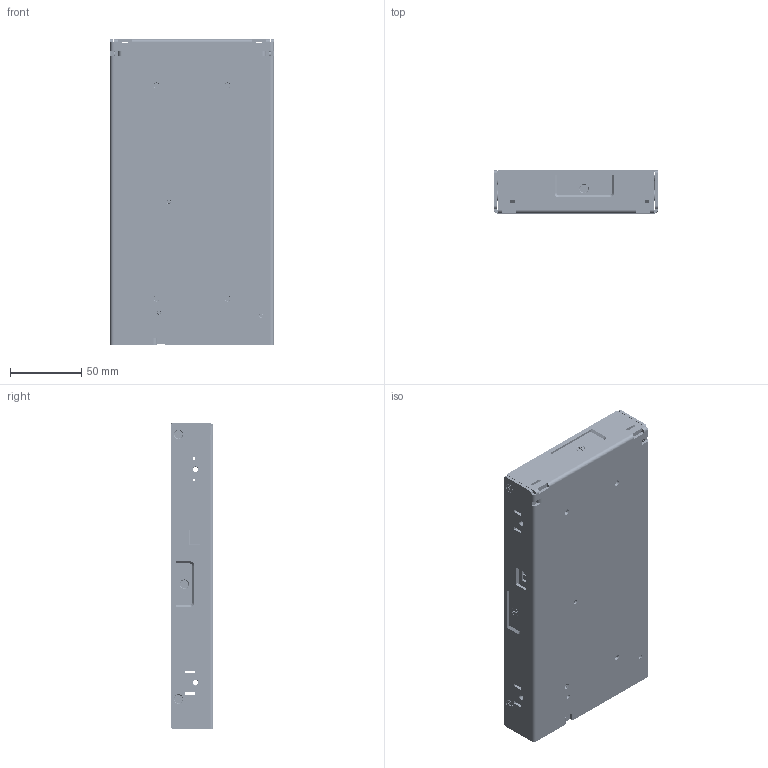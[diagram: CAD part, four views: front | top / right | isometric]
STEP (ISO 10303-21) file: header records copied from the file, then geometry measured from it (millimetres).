
FILE_DESCRIPTION((''),'2;1');
FILE_NAME('LM350-10BXX_ASM','2025-03-27T',('pe211'),(''),'PRO/ENGINEER BY PARAMETRIC TECHNOLOGY CORPORATION, 2014000','PRO/ENGINEER BY PARAMETRIC TECHNOLOGY CORPORATION, 2014000','');
FILE_SCHEMA(('AUTOMOTIVE_DESIGN { 1 0 10303 214 1 1 1 1 }'));
Products named in the file (278): CHASSIS_5_1; M3_6_1_1; INSULATOR_3_1; SCREW_5_1; 0_CHASSIS_ASM_3_ASM_1_ASM; MANIFOLD_SOLID_BREP_115093_1; MANIFOLD_SOLID_BREP_115234_1; FAN_1_ASM_1_ASM; SCREW_FAN_1_1; 0_COVER_ASM_2_ASM_1_ASM; CASE_ASM_1_ASM_1_ASM; PRT0029_2_1; ASM0242_ASM_1_ASM_1; ASM0243_ASM_1_ASM_1; ASM0244_ASM_1_ASM_1; ASM0245_ASM_1_ASM_1; ASM0246_ASM_1_ASM_1; ASM0247_ASM_1_ASM_1; ASM0248_ASM_1_ASM_1; ASM0249_ASM_1_ASM_1; ASM0250_ASM_1_ASM_1; ASM0251_ASM_1_ASM_1; ASM0252_ASM_1_ASM_1; ASM0253_ASM_1_ASM_1; ASM0254_ASM_1_ASM_1; R144_ASM_1_ASM_1; ASM0255_ASM_1_ASM_1; C116_ASM_1_ASM_1; R143_ASM_1_ASM_1; R127_ASM_1_ASM_1; R142_ASM_1_ASM_1; R129_ASM_1_ASM_1; R111_ASM_1_ASM_1; SOD-323_ASM_1_ASM_1; ZD103_ASM_1_ASM_1_ASM; ASM0256_ASM_1_ASM_1; ASM0257_ASM_1_ASM_1; ASM0258_ASM_1_ASM_1; ASM0259_ASM_1_ASM_1; ASM0260_ASM_1_ASM_1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
Assembly tree (303 placements, depth 9):
  LM350-10BXX_ASM
    00_350W_ASM_ASM_1_ASM
      00_350W_ASM_15_ASM_1_ASM
        CASE_ASM_1_ASM_1_ASM
          0_CHASSIS_ASM_3_ASM_1_ASM
            CHASSIS_5_1
            M3_6_1_1  x4
            INSULATOR_3_1
            SCREW_5_1  x3
          0_COVER_ASM_2_ASM_1_ASM
            FAN_1_ASM_1_ASM
              MANIFOLD_SOLID_BREP_115093_1
              MANIFOLD_SOLID_BREP_115234_1
            SCREW_FAN_1_1  x2
        PCB_ASY_ASM_3_ASM_1_ASM
          PCB_0627_ASM_1_ASM_1_ASM
            ASM0241_ASM_1_ASM_1_ASM
              PRT0029_2_1
              ASM0242_ASM_1_ASM_1
              ASM0243_ASM_1_ASM_1
              ASM0244_ASM_1_ASM_1
              ASM0245_ASM_1_ASM_1
              ASM0246_ASM_1_ASM_1
              ASM0247_ASM_1_ASM_1
              ASM0248_ASM_1_ASM_1
              ASM0249_ASM_1_ASM_1
              ASM0250_ASM_1_ASM_1
              ASM0251_ASM_1_ASM_1
              ASM0252_ASM_1_ASM_1
              ASM0253_ASM_1_ASM_1
              ASM0254_ASM_1_ASM_1
              R144_ASM_1_ASM_1
              ASM0255_ASM_1_ASM_1
              C116_ASM_1_ASM_1
              R143_ASM_1_ASM_1
              R127_ASM_1_ASM_1
              R142_ASM_1_ASM_1
              R129_ASM_1_ASM_1
              R111_ASM_1_ASM_1
              ZD103_ASM_1_ASM_1_ASM
                SOD-323_ASM_1_ASM_1
              ASM0256_ASM_1_ASM_1
              ASM0257_ASM_1_ASM_1
              ASM0258_ASM_1_ASM_1
              ASM0259_ASM_1_ASM_1
              ASM0260_ASM_1_ASM_1
              ASM0261_ASM_1_ASM_1
              ASM0262_ASM_1_ASM_1_ASM
                ASM0263_ASM_1_ASM_1
              ASM0264_ASM_1_ASM_1
              ASM0265_ASM_1_ASM_1
              ASM0266_ASM_1_ASM_1
              ASM0267_ASM_1_ASM_1
              ASM0268_ASM_1_ASM_1
              ASM0269_ASM_1_ASM_1
              ASM0270_ASM_1_ASM_1
              ASM0271_ASM_1_ASM_1
              ASM0272_ASM_1_ASM_1
              ASM0273_ASM_1_ASM_1
              ASM0274_ASM_1_ASM_1
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Bounding box: 115 x 30 x 215 mm (x, y, z)
Volume: 172275.7 mm3; surface area: 257970.7 mm2
Topology: 39 solids, 41 shells, 7293 faces, 21348 edges, 13892 vertices
Faces by surface type: plane 3969, bspline 1229, cylinder 1101, extrusion 848, cone 120, torus 18, sphere 8
Entity records: 373243 total; most frequent: CARTESIAN_POINT 185011, ORIENTED_EDGE 40014, DIRECTION 27436, EDGE_CURVE 20007, VECTOR 12920, VERTEX_POINT 12915, LINE 12072, EDGE_LOOP 7948
